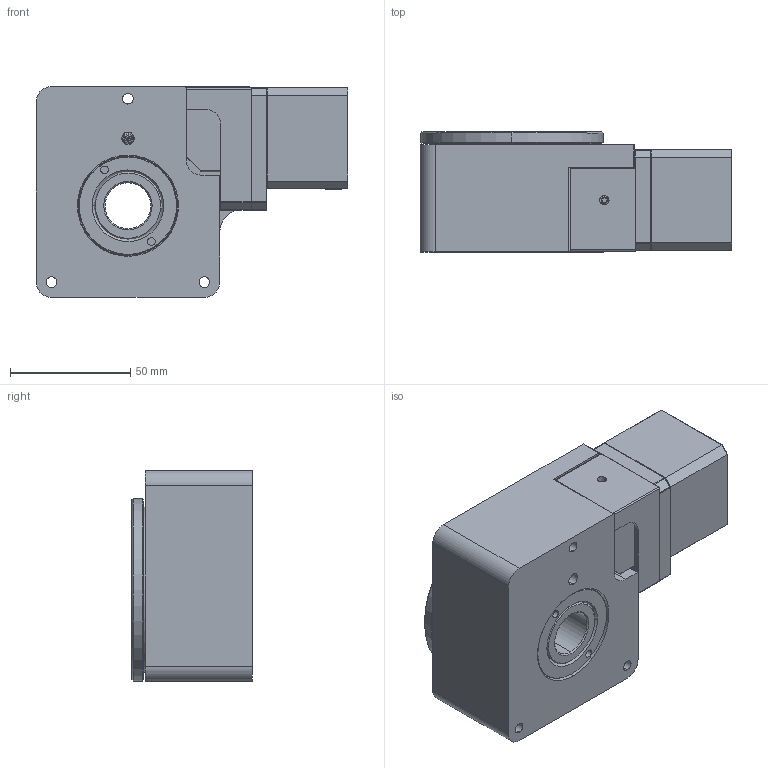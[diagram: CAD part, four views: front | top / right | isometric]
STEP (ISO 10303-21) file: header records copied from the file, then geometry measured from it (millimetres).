
FILE_DESCRIPTION (( 'STEP AP214' ), '1' );
FILE_NAME ('L3552.075-STA_v2_20180817.STEP', '2018-08-22T11:15:04', ( '' ), ( '' ), 'SwSTEP 2.0', 'SolidWorks 2017', '' );
FILE_SCHEMA (( 'AUTOMOTIVE_DESIGN' ));
Length unit declared in the file: millimetre
Products named in the file (1): L3552.075-STA_v2_20180817
Bounding box: 129.41 x 49.96 x 87.63 mm (x, y, z)
Volume: 373406.5 mm3; surface area: 115208.1 mm2
Topology: 34 solids, 34 shells, 1486 faces, 3837 edges, 2484 vertices
Faces by surface type: plane 666, cylinder 567, cone 143, bspline 110
Entity records: 54825 total; most frequent: CARTESIAN_POINT 18667, ORIENTED_EDGE 7606, DIRECTION 7304, EDGE_CURVE 3803, AXIS2_PLACEMENT_3D 2523, VERTEX_POINT 2484, VECTOR 2258, LINE 2258
